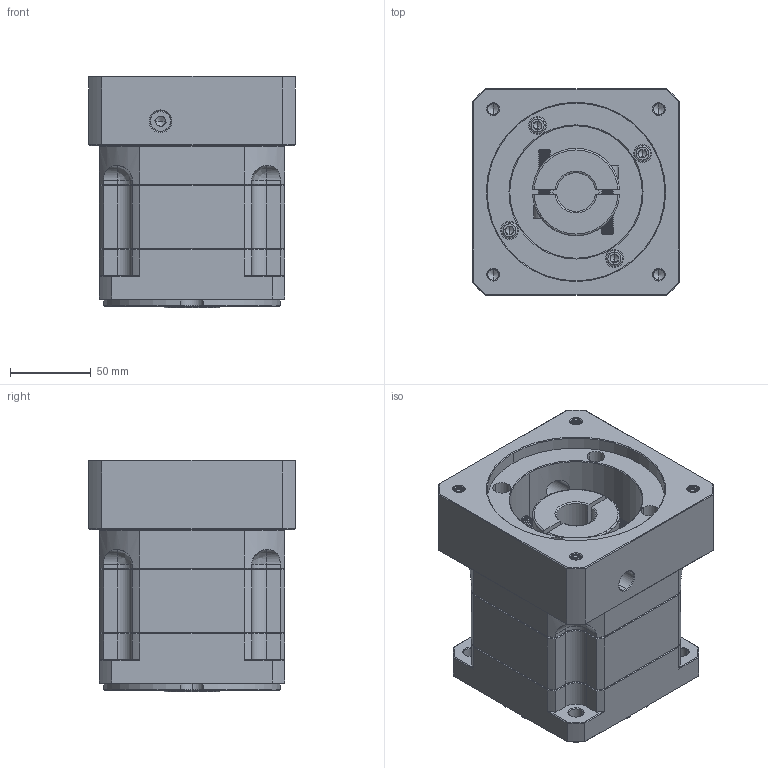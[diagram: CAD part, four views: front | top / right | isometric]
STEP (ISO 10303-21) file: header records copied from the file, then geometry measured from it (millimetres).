
FILE_DESCRIPTION (( 'STEP AP214' ), '1' );
FILE_NAME ('ZB115A-K25-L1-P2-24-110-145-M8.step', '2023-08-26T06:35:51', ( '' ), ( '' ), 'SwSTEP 2.0', 'SolidWorks 2016', '' );
FILE_SCHEMA (( 'AUTOMOTIVE_DESIGN' ));
Length unit declared in the file: millimetre
Products named in the file (1): ZB115A-K25-L1-P2-24-110-145-M8
Bounding box: 128 x 128 x 143.5 mm (x, y, z)
Volume: 1567509.5 mm3; surface area: 175785.3 mm2
Topology: 6 solids, 6 shells, 2335 faces, 6124 edges, 3888 vertices
Faces by surface type: plane 1136, bspline 414, cylinder 406, cone 359, torus 20
Entity records: 123327 total; most frequent: CARTESIAN_POINT 43495, ORIENTED_EDGE 12184, DIRECTION 9681, EDGE_CURVE 6092, LINE 3941, VECTOR 3941, VERTEX_POINT 3888, AXIS2_PLACEMENT_3D 2870
